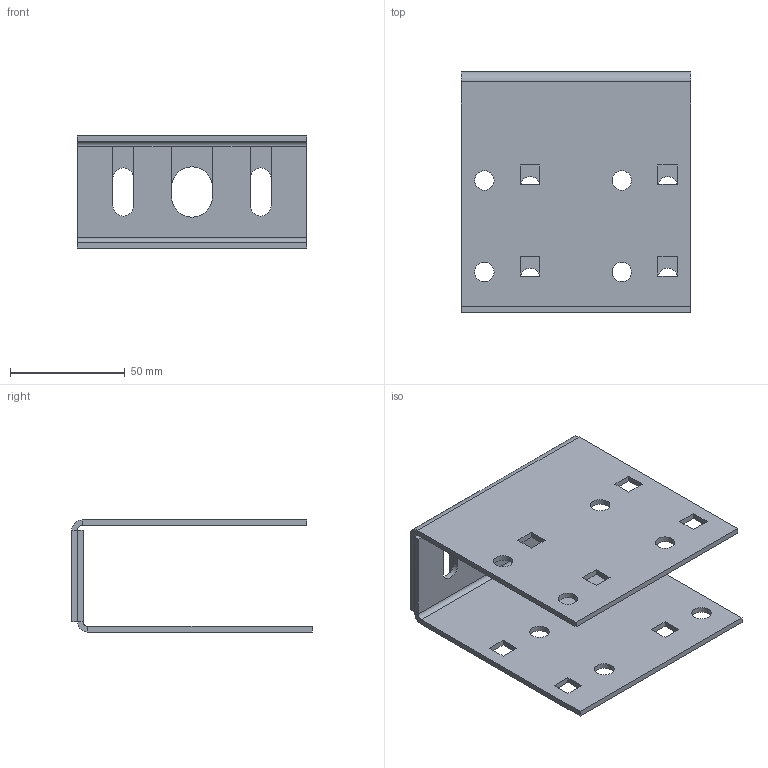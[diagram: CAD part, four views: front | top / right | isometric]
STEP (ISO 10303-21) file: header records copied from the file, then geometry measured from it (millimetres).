
FILE_DESCRIPTION(/* description */ ('Biegeteil mit Löchern'),/* implementation_level */ '2;1');
FILE_NAME(/* name */ 'Q:\sge-ma\Produktmanagement-STB\STB\Workspace\TraceParts\Verstärkungslasche\010336520.stp',/* time_stamp */ '2016-07-18T14:00:41+02:00',/* author */ ('avschreier'),/* organization */ (''),/* preprocessor_version */ 'ST-DEVELOPER v16.1',/* originating_system */ 'Autodesk Inventor 2016',/* authorisation */ '');
FILE_SCHEMA (('AUTOMOTIVE_DESIGN { 1 0 10303 214 3 1 1 }'));
Length unit declared in the file: millimetre
Products named in the file (2): 337000243; 010336520
Assembly tree (2 placements, depth 2):
  010336520
    337000243  x2
Bounding box: 100 x 105 x 49 mm (x, y, z)
Volume: 63700.8 mm3; surface area: 55448.6 mm2
Topology: 2 solids, 2 shells, 92 faces, 248 edges, 160 vertices
Faces by surface type: plane 74, cylinder 18
Full cylindrical faces by diameter (mm): 8.5 x8
Entity records: 1486 total; most frequent: CARTESIAN_POINT 250, ORIENTED_EDGE 240, DIRECTION 238, EDGE_CURVE 120, LINE 102, VECTOR 102, VERTEX_POINT 80, AXIS2_PLACEMENT_3D 68
